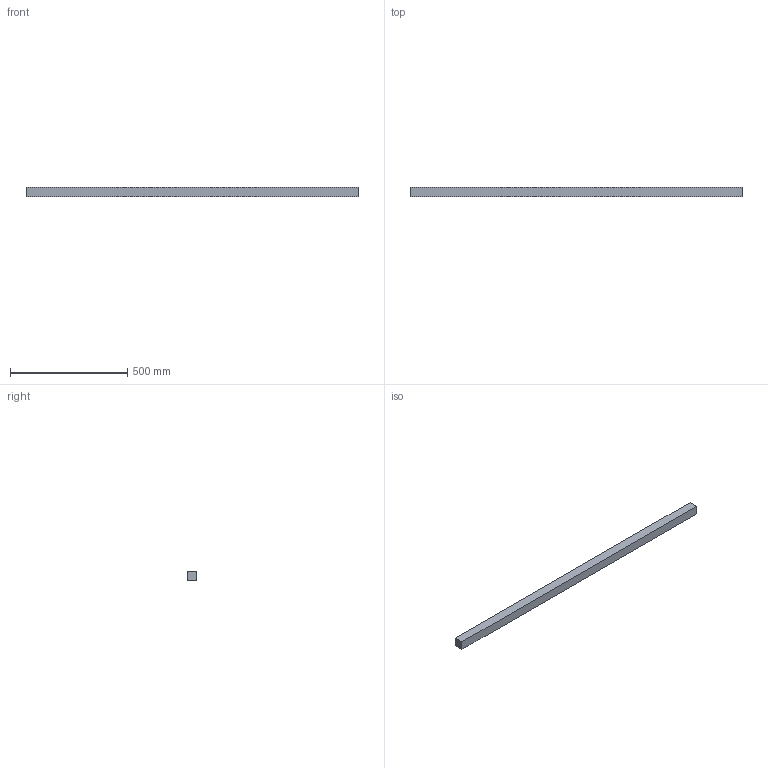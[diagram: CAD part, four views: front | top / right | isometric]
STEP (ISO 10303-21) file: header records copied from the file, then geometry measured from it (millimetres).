
FILE_DESCRIPTION(/* description */ (''),/* implementation_level */ '2;1');
FILE_NAME(/* name */ '5.y-cart#5.8#HFS5-4040-1418',/* time_stamp */ '2014-12-01T20:13:33+01:00',/* author */ (''),/* organization */ (''),/* preprocessor_version */ 'ST-DEVELOPER v14',/* originating_system */ '',/* authorisation */ '');
FILE_SCHEMA (('AUTOMOTIVE_DESIGN'));
Length unit declared in the file: millimetre
Products named in the file (1): Document
Bounding box: 1418 x 40 x 40 mm (x, y, z)
Volume: 2268800 mm3; surface area: 230080 mm2
Topology: 1 solids, 1 shells, 6 faces, 12 edges, 8 vertices
Faces by surface type: plane 6
Entity records: 298 total; most frequent: CARTESIAN_POINT 88, B_SPLINE_CURVE_WITH_KNOTS 36, ORIENTED_EDGE 24, PCURVE 24, DEFINITIONAL_REPRESENTATION 24, SURFACE_CURVE 12, EDGE_CURVE 12, DIRECTION 10
